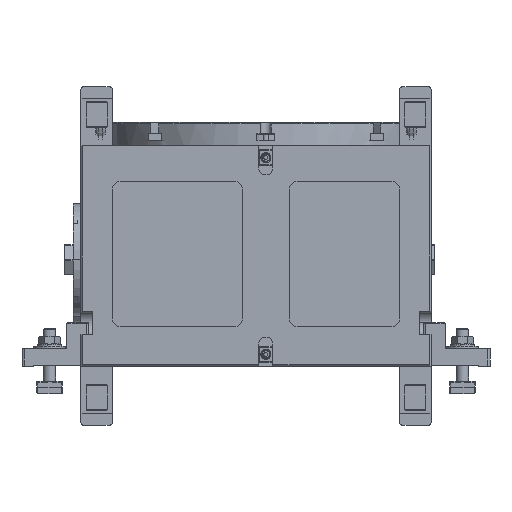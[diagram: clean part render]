
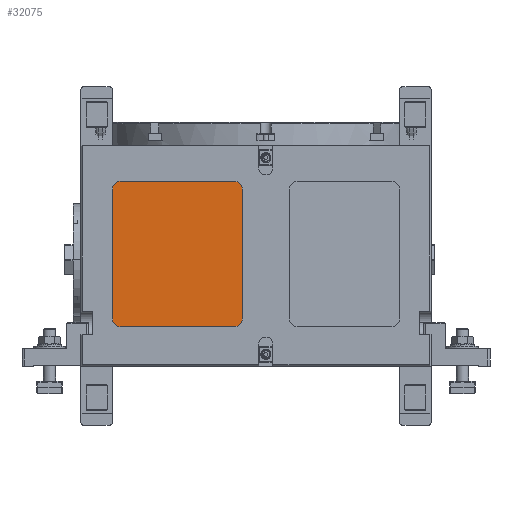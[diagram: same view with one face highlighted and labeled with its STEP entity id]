
A CAD part, front view. The second image highlights one B-rep face of the part: STEP entity #32075.
In plain terms, the highlighted planar face has unit normal (0, -1, 0).
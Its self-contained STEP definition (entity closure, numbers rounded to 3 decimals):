
#365 = DIRECTION ( 'NONE',  ( 0., -1., 0. ) ) ;
#1327 = FACE_OUTER_BOUND ( 'NONE', #30575, .T. ) ;
#1892 = CARTESIAN_POINT ( 'NONE',  ( -40., -230., -85. ) ) ;
#2103 = CARTESIAN_POINT ( 'NONE',  ( -185., -230., 100. ) ) ;
#2183 = CARTESIAN_POINT ( 'NONE',  ( -185., -230., -85. ) ) ;
#2818 = EDGE_CURVE ( 'NONE', #29121, #15504, #28636, .T. ) ;
#3976 = VERTEX_POINT ( 'NONE', #66384 ) ;
#4430 = EDGE_CURVE ( 'NONE', #65634, #11493, #70738, .T. ) ;
#5674 = EDGE_CURVE ( 'NONE', #11493, #3976, #55562, .T. ) ;
#5750 = CARTESIAN_POINT ( 'NONE',  ( -40., -230., 100. ) ) ;
#7493 = ORIENTED_EDGE ( 'NONE', *, *, #32729, .T. ) ;
#7703 = PLANE ( 'NONE',  #8141 ) ;
#8141 = AXIS2_PLACEMENT_3D ( 'NONE', #26822, #53924, #34838 ) ;
#8939 = EDGE_CURVE ( 'NONE', #15504, #9321, #9674, .T. ) ;
#9321 = VERTEX_POINT ( 'NONE', #68684 ) ;
#9674 = CIRCLE ( 'NONE', #62542, 10. ) ;
#11493 = VERTEX_POINT ( 'NONE', #5750 ) ;
#12649 = DIRECTION ( 'NONE',  ( 0., 0., -1. ) ) ;
#13836 = AXIS2_PLACEMENT_3D ( 'NONE', #32723, #52207, #46685 ) ;
#14085 = LINE ( 'NONE', #72197, #41923 ) ;
#15504 = VERTEX_POINT ( 'NONE', #1892 ) ;
#18973 = CIRCLE ( 'NONE', #74481, 10. ) ;
#19998 = ORIENTED_EDGE ( 'NONE', *, *, #30857, .T. ) ;
#21766 = ORIENTED_EDGE ( 'NONE', *, *, #4430, .T. ) ;
#21881 = EDGE_CURVE ( 'NONE', #82820, #29121, #18973, .T. ) ;
#22255 = DIRECTION ( 'NONE',  ( 1., 0., 0. ) ) ;
#24582 = AXIS2_PLACEMENT_3D ( 'NONE', #44893, #31335, #12649 ) ;
#26822 = CARTESIAN_POINT ( 'NONE',  ( -40., -230., -75. ) ) ;
#26892 = ORIENTED_EDGE ( 'NONE', *, *, #8939, .T. ) ;
#28636 = LINE ( 'NONE', #54495, #65786 ) ;
#29121 = VERTEX_POINT ( 'NONE', #2183 ) ;
#30575 = EDGE_LOOP ( 'NONE', ( #26892, #19998, #21766, #77995, #7493, #41326, #34726, #52587 ) ) ;
#30857 = EDGE_CURVE ( 'NONE', #9321, #65634, #14085, .T. ) ;
#31319 = LINE ( 'NONE', #44021, #66757 ) ;
#31335 = DIRECTION ( 'NONE',  ( 0., -1., 0. ) ) ;
#32075 = ADVANCED_FACE ( 'NONE', ( #1327 ), #7703, .T. ) ;
#32723 = CARTESIAN_POINT ( 'NONE',  ( -40., -230., 90. ) ) ;
#32729 = EDGE_CURVE ( 'NONE', #3976, #71054, #81477, .T. ) ;
#34726 = ORIENTED_EDGE ( 'NONE', *, *, #21881, .T. ) ;
#34838 = DIRECTION ( 'NONE',  ( 0., 0., -1. ) ) ;
#34864 = CARTESIAN_POINT ( 'NONE',  ( -195., -230., 90. ) ) ;
#38167 = CARTESIAN_POINT ( 'NONE',  ( -185., -230., -75. ) ) ;
#40938 = DIRECTION ( 'NONE',  ( 0., -1., 0. ) ) ;
#41326 = ORIENTED_EDGE ( 'NONE', *, *, #66929, .T. ) ;
#41923 = VECTOR ( 'NONE', #46719, 1000. ) ;
#41990 = DIRECTION ( 'NONE',  ( -1., 0., 0. ) ) ;
#44021 = CARTESIAN_POINT ( 'NONE',  ( -195., -230., 90. ) ) ;
#44893 = CARTESIAN_POINT ( 'NONE',  ( -185., -230., 90. ) ) ;
#46685 = DIRECTION ( 'NONE',  ( 0., 0., 1. ) ) ;
#46719 = DIRECTION ( 'NONE',  ( 0., 0., 1. ) ) ;
#52207 = DIRECTION ( 'NONE',  ( 0., -1., 0. ) ) ;
#52587 = ORIENTED_EDGE ( 'NONE', *, *, #2818, .T. ) ;
#53830 = VECTOR ( 'NONE', #41990, 1000. ) ;
#53924 = DIRECTION ( 'NONE',  ( 0., -1., 0. ) ) ;
#54495 = CARTESIAN_POINT ( 'NONE',  ( -185., -230., -85. ) ) ;
#55562 = LINE ( 'NONE', #2103, #53830 ) ;
#56112 = DIRECTION ( 'NONE',  ( 0., 0., -1. ) ) ;
#62542 = AXIS2_PLACEMENT_3D ( 'NONE', #65975, #40938, #73176 ) ;
#65634 = VERTEX_POINT ( 'NONE', #76667 ) ;
#65786 = VECTOR ( 'NONE', #22255, 1000. ) ;
#65975 = CARTESIAN_POINT ( 'NONE',  ( -40., -230., -75. ) ) ;
#66384 = CARTESIAN_POINT ( 'NONE',  ( -185., -230., 100. ) ) ;
#66428 = CARTESIAN_POINT ( 'NONE',  ( -195., -230., -75. ) ) ;
#66757 = VECTOR ( 'NONE', #82635, 1000. ) ;
#66929 = EDGE_CURVE ( 'NONE', #71054, #82820, #31319, .T. ) ;
#68684 = CARTESIAN_POINT ( 'NONE',  ( -30., -230., -75. ) ) ;
#70738 = CIRCLE ( 'NONE', #13836, 10. ) ;
#71054 = VERTEX_POINT ( 'NONE', #34864 ) ;
#72197 = CARTESIAN_POINT ( 'NONE',  ( -30., -230., 90. ) ) ;
#73176 = DIRECTION ( 'NONE',  ( 0., 0., -1. ) ) ;
#74481 = AXIS2_PLACEMENT_3D ( 'NONE', #38167, #365, #56112 ) ;
#76667 = CARTESIAN_POINT ( 'NONE',  ( -30., -230., 90. ) ) ;
#77995 = ORIENTED_EDGE ( 'NONE', *, *, #5674, .T. ) ;
#81477 = CIRCLE ( 'NONE', #24582, 10. ) ;
#82635 = DIRECTION ( 'NONE',  ( 0., 0., -1. ) ) ;
#82820 = VERTEX_POINT ( 'NONE', #66428 ) ;
